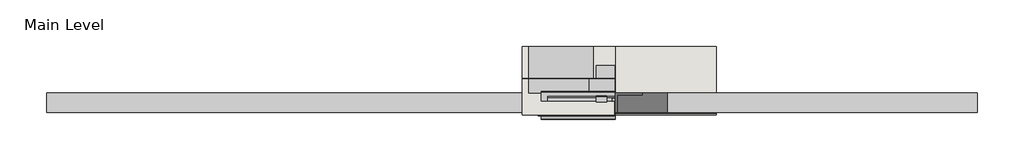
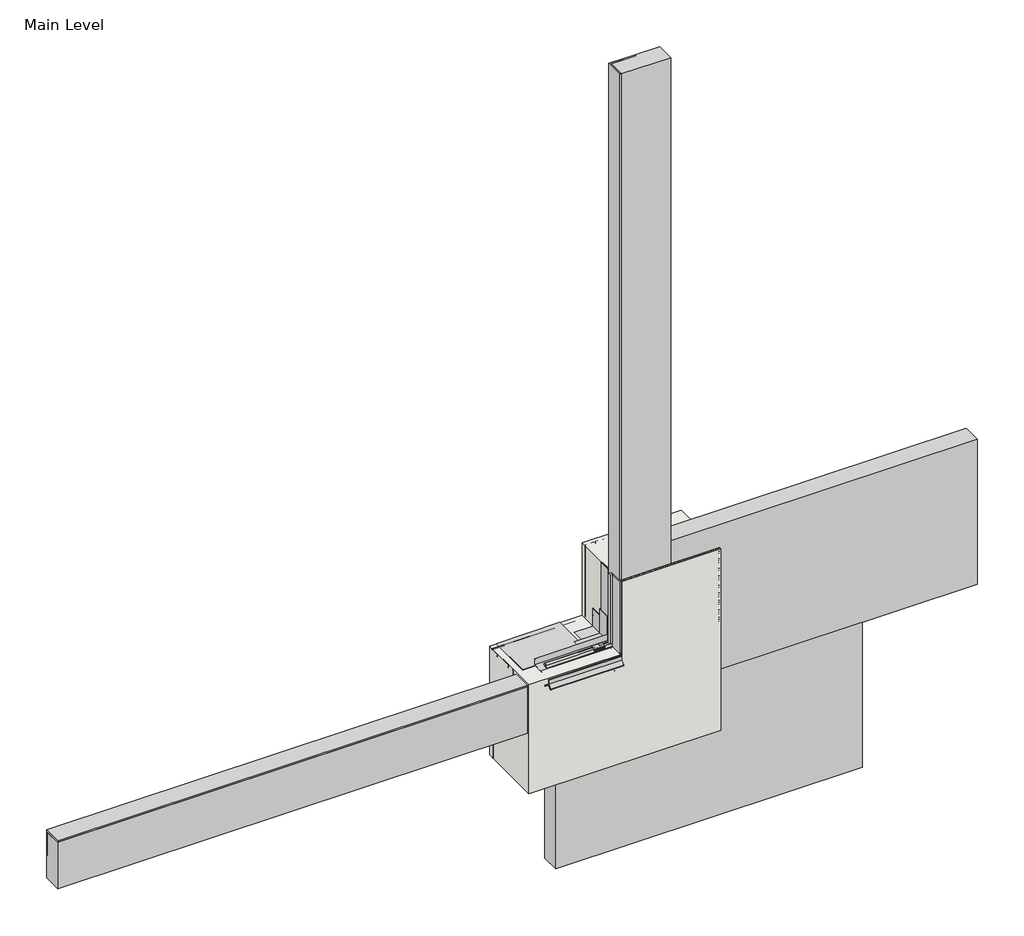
# One storey, incomplete: 19 proxies, 1 wall.
"""IFC4 building model written with IfcOpenShell, lengths in millimetres."""

from ifc_helpers import new_model, si_unit, frame, origin, place, context, project, spatial, polyline, outline, extrude, transform, mapped, element, save
from components import generic_models_31547c53, generic_models_d28646c3, generic_models_6d26ea6e, generic_models_db5184ed, generic_models_008a3d59, generic_models_12b73edd, proxy_ba8d72b4, proxy_a98eb32a, proxy_9e09e9f6, finish_coat_filler_finish_coat_filler_9b34bf11, masonry_sill_masonry_sill_3f966eea, masonry_sill3_masonry_sill_d59b7927, masonry_sill4_masonry_sill_9228ef93, proxy_a3fd9b0b, proxy_3a0ad636, proxy_0073da47, proxy_6f3203ff, window_header_window_header_abd4ef46, wood_blocking_5320d369

model = new_model("IFC4")

# Units and contexts
model_context = context("Model", 3, world=origin())
ifc_project = project(units=[si_unit("LENGTHUNIT", "METRE", prefix="MILLI")], contexts=[model_context])

# Site, building, storey
site = spatial("IfcSite", under=ifc_project)
building = spatial("IfcBuilding", under=site)
storey = spatial("IfcBuildingStorey", under=building, Name="Main Level", Elevation=0.0)

# Proxies
placement = place(None, origin())
generic_models_shape = generic_models_31547c53(model_context)
element("IfcBuildingElementProxy", 1, Name="Durabond Generic Model Sealant Vent : Durabond Generic Model Sealant Vent", ObjectType="Durabond Generic Model Sealant Vent : Durabond Generic Model Sealant Vent", at=placement, inside=storey, context=model_context, shape_type="MappedRepresentation", body=[
    mapped(generic_models_shape, transform((26800.7195523, 590.8476543, 464.646745), x_axis=(1.0, 0.0, 0.0), y_axis=(0.0, 0.08715574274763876, -0.9961946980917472), z_axis=(0.0, 0.9961946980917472, 0.08715574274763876))),
])
generic_models_2_shape = generic_models_d28646c3(model_context)
element("IfcBuildingElementProxy", 2, Name="CRAi Generic Model Line Based Drip Deflector : CRAi Generic Model Line Based Drip Deflector", ObjectType="CRAi Generic Model Line Based Drip Deflector : CRAi Generic Model Line Based Drip Deflector", at=placement, inside=storey, context=model_context, shape_type="MappedRepresentation", body=[
    mapped(generic_models_2_shape, transform((26855.8851773, 535.1829375, 451.8088934), x_axis=(0.0, 0.996194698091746, 0.08715574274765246), y_axis=(-1.0, 0.0, 0.0), z_axis=(0.0, -0.0871557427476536, 0.996194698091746))),
])
generic_models_3_shape = generic_models_6d26ea6e(model_context)
generic_models_4_shape = generic_models_db5184ed(model_context)
generic_models_5_shape = generic_models_008a3d59(model_context)
generic_models_6_shape = generic_models_12b73edd(model_context)
element("IfcBuildingElementProxy", 3, Name="CRAi Generic Model Mesh Piece Face Based : CRAi Generic Model Mesh Piece Face Based", ObjectType="CRAi Generic Model Mesh Piece Face Based : CRAi Generic Model Mesh Piece Face Based", at=placement, inside=storey, context=model_context, shape_type="MappedRepresentation", body=[
    mapped(generic_models_3_shape, transform((27054.3226773, 541.9066297, 606.6633203), x_axis=(-1.0, 0.0, 0.0), y_axis=(0.0, 0.0, -1.0), z_axis=(0.0, -1.0, 0.0))),
    mapped(generic_models_4_shape, transform((27054.3226773, 541.9066297, 606.6633203), x_axis=(-1.0, 0.0, 0.0), y_axis=(0.0, 0.0, -1.0), z_axis=(0.0, -1.0, 0.0))),
    mapped(generic_models_5_shape, transform((27054.3226773, 541.9066297, 606.6633203), x_axis=(-1.0, 0.0, 0.0), y_axis=(0.0, 0.0, -1.0), z_axis=(0.0, -1.0, 0.0))),
    mapped(generic_models_6_shape, transform((27054.3226773, 541.9066297, 606.6633203), x_axis=(-1.0, 0.0, 0.0), y_axis=(0.0, 0.0, -1.0), z_axis=(0.0, -1.0, 0.0))),
])
proxy_shape = proxy_ba8d72b4(model_context)
element("IfcBuildingElementProxy", 4, Name="Durabond Generic Model Equalite Select Boundary Board : 3\"", ObjectType="Durabond Generic Model Equalite Select Boundary Board : 3\"", at=placement, inside=storey, context=model_context, shape_type="MappedRepresentation", body=[
    mapped(proxy_shape, transform((25839.8851773, 624.4566297, 349.375778), x_axis=(-1.0, 0.0, 0.0), y_axis=(0.0, 0.0, -1.0), z_axis=(0.0, -1.0, 0.0))),
])
proxy_2_shape = proxy_a98eb32a(model_context)
element("IfcBuildingElementProxy", 5, Name="Durabond Generic Model Equalite Select Boundary Board : 3\"", ObjectType="Durabond Generic Model Equalite Select Boundary Board : 3\"", at=placement, inside=storey, context=model_context, shape_type="MappedRepresentation", body=[
    mapped(proxy_2_shape, transform((26957.4851773, 624.4566297, 1670.175778), x_axis=(0.0, 0.0, 1.0), y_axis=(-1.0, 0.0, 0.0), z_axis=(0.0, -1.0, 0.0))),
])
proxy_3_shape = proxy_9e09e9f6(model_context)
element("IfcBuildingElementProxy", 6, Name="Durabond Generic Model Equalite Insulation Board : 3\"", ObjectType="Durabond Generic Model Equalite Insulation Board : 3\"", at=placement, inside=storey, context=model_context, shape_type="MappedRepresentation", body=[
    mapped(proxy_3_shape, transform((27211.4851773, 624.4566297, -57.024222), x_axis=(1.0, 0.0, 0.0), y_axis=(0.0, 0.0, 1.0), z_axis=(0.0, -1.0, 0.0))),
])
element("IfcBuildingElementProxy", 7, Name="Durabond Generic Model Equalite Insulation Board : 3\"", ObjectType="Durabond Generic Model Equalite Insulation Board : 3\"", at=placement, inside=storey, context=model_context, shape_type="MappedRepresentation", body=[
    mapped(proxy_3_shape, transform((27668.6851773, 624.4566297, 552.575778), x_axis=(1.0, 0.0, 0.0), y_axis=(0.0, 0.0, 1.0), z_axis=(0.0, -1.0, 0.0))),
])
finish_coat_filler_finish_coat_filler_shape = finish_coat_filler_finish_coat_filler_9b34bf11(model_context)
element("IfcBuildingElementProxy", 8, Name="Finish Coat Filler : Finish Coat Filler", ObjectType="Finish Coat Filler : Finish Coat Filler", at=placement, inside=storey, context=model_context, shape_type="MappedRepresentation", body=[
    mapped(finish_coat_filler_finish_coat_filler_shape, transform((0.0, 0.0, -152.4), x_axis=(1.0, 0.0, 0.0), y_axis=(0.0, 1.0, 0.0), z_axis=(0.0, 0.0, 1.0))),
])
masonry_sill_masonry_sill_shape = masonry_sill_masonry_sill_3f966eea(model_context)
element("IfcBuildingElementProxy", 9, Name="Masonry Sill : Masonry Sill", ObjectType="Masonry Sill : Masonry Sill", at=placement, inside=storey, context=model_context, shape_type="MappedRepresentation", body=[
    mapped(masonry_sill_masonry_sill_shape, transform((0.0, 0.0, 0.0), x_axis=(1.0, 0.0, 0.0), y_axis=(0.0, 1.0, 0.0), z_axis=(0.0, 0.0, 1.0))),
])
masonry_sill3_masonry_sill_shape = masonry_sill3_masonry_sill_d59b7927(model_context)
element("IfcBuildingElementProxy", 10, Name="Masonry Sill3 : Masonry Sill", ObjectType="Masonry Sill3 : Masonry Sill", at=placement, inside=storey, context=model_context, shape_type="MappedRepresentation", body=[
    mapped(masonry_sill3_masonry_sill_shape, transform((0.0, 0.0, 0.0), x_axis=(1.0, 0.0, 0.0), y_axis=(0.0, 1.0, 0.0), z_axis=(0.0, 0.0, 1.0))),
])
masonry_sill4_masonry_sill_shape = masonry_sill4_masonry_sill_9228ef93(model_context)
element("IfcBuildingElementProxy", 11, Name="Masonry Sill4 : Masonry Sill", ObjectType="Masonry Sill4 : Masonry Sill", at=placement, inside=storey, context=model_context, shape_type="MappedRepresentation", body=[
    mapped(masonry_sill4_masonry_sill_shape, transform((0.0, 0.0, -101.6), x_axis=(1.0, 0.0, 0.0), y_axis=(0.0, 1.0, 0.0), z_axis=(0.0, 0.0, 1.0))),
])
proxy_4_shape = proxy_a3fd9b0b(model_context)
element("IfcBuildingElementProxy", 12, Name="CRAi Generic Model Metal Stud : Metal Framing Stud - 1\" x 3.5\"", ObjectType="CRAi Generic Model Metal Stud : Metal Framing Stud - 1\" x 3.5\"", at=placement, inside=storey, context=model_context, shape_type="MappedRepresentation", body=[
    mapped(proxy_4_shape, transform((26876.5226773, 726.0566297, 0.0), x_axis=(1.0, 0.0, 0.0), y_axis=(0.0, 1.0, 0.0), z_axis=(0.0, 0.0, 1.0))),
])
proxy_5_shape = proxy_3a0ad636(model_context)
element("IfcBuildingElementProxy", 13, Name="CRAi Generic Model Metal Stud : Metal Framing Stud - 1\" x 3.5\"", ObjectType="CRAi Generic Model Metal Stud : Metal Framing Stud - 1\" x 3.5\"", at=placement, inside=storey, context=model_context, shape_type="MappedRepresentation", body=[
    mapped(proxy_5_shape, transform((26876.5226773, 719.7066297, 0.0), x_axis=(1.0, 0.0, 0.0), y_axis=(0.0, 1.0, 0.0), z_axis=(0.0, 0.0, 1.0))),
])
proxy_6_shape = proxy_0073da47(model_context)
element("IfcBuildingElementProxy", 14, Name="CRAi Generic Model Metal Stud : Metal Framing Stud - 1\" x 3.5\"", ObjectType="CRAi Generic Model Metal Stud : Metal Framing Stud - 1\" x 3.5\"", at=placement, inside=storey, context=model_context, shape_type="MappedRepresentation", body=[
    mapped(proxy_6_shape, transform((26914.6226773, 719.7066297, 0.0), x_axis=(-1.0, 0.0, 0.0), y_axis=(0.0, -1.0, 0.0), z_axis=(0.0, 0.0, 1.0))),
])
proxy_7_shape = proxy_6f3203ff(model_context)
element("IfcBuildingElementProxy", 15, Name="CRAi Generic Model Metal Stud : Metal Framing Stud - 1\" x 3.5\"", ObjectType="CRAi Generic Model Metal Stud : Metal Framing Stud - 1\" x 3.5\"", at=placement, inside=storey, context=model_context, shape_type="MappedRepresentation", body=[
    mapped(proxy_7_shape, transform((26508.2226773, 719.7066297, 0.0), x_axis=(-1.0, 0.0, 0.0), y_axis=(0.0, -1.0, 0.0), z_axis=(0.0, 0.0, 1.0))),
])
window_header_window_header_shape = window_header_window_header_abd4ef46(model_context)
element("IfcBuildingElementProxy", 16, Name="Window Header : Window Header", ObjectType="Window Header : Window Header", at=placement, inside=storey, context=model_context, shape_type="MappedRepresentation", body=[
    mapped(window_header_window_header_shape, transform((0.0, -6.35, 0.0), x_axis=(1.0, 0.0, 0.0), y_axis=(0.0, 1.0, 0.0), z_axis=(0.0, 0.0, 1.0))),
])
wood_blocking_shape = wood_blocking_5320d369(model_context)
element("IfcBuildingElementProxy", 17, Name="CRAi Generic Model Line Based Metal Framing Track : Wood Blocking", ObjectType="CRAi Generic Model Line Based Metal Framing Track : Wood Blocking", at=placement, inside=storey, context=model_context, shape_type="MappedRepresentation", body=[
    mapped(wood_blocking_shape, transform((26489.1726773, 643.5066297, 304.8), x_axis=(1.0, 0.0, 0.0), y_axis=(0.0, 1.0, 0.0), z_axis=(0.0, 0.0, 1.0))),
])
element("IfcBuildingElementProxy", 18, Name="CRAi Generic Model Line Based Metal Framing Track : Wood Blocking", ObjectType="CRAi Generic Model Line Based Metal Framing Track : Wood Blocking", at=placement, inside=storey, context=model_context, shape_type="MappedRepresentation", body=[
    mapped(wood_blocking_shape, transform((26489.1726773, 795.907101, 457.2), x_axis=(1.0, 0.0, 0.0), y_axis=(0.0, -1.0, 0.0), z_axis=(0.0, 0.0, -1.0))),
])
element("IfcBuildingElementProxy", 19, Name="CRAi Generic Model Line Based Metal Framing Track : Wood Blocking", ObjectType="CRAi Generic Model Line Based Metal Framing Track : Wood Blocking", at=placement, inside=storey, context=model_context, shape_type="MappedRepresentation", body=[
    mapped(wood_blocking_shape, transform((26489.1726773, 795.9066297, 304.8), x_axis=(1.0, 0.0, 0.0), y_axis=(0.0, -1.0, 0.0), z_axis=(0.0, 0.0, -1.0))),
])

# Wall
element("IfcWall", 20, ObjectType="189mm (7.5”) EIFS Field Applied on Mtl. Stud Layer - 50mm Grooved Insulation Board Metal Stud Wall(AirStop) 2", at=placement, inside=storey, context=model_context, shape_type="SweptSolid", body=[
    extrude(outline(polyline([(0.0, 26489.1726773), (0.0, 27251.1726773), (762.0, 27251.1726773), (762.0, 26857.4726773), (457.2, 26857.4726773), (457.2, 26489.1726773), (0.0, 26489.1726773)])), frame((0.0, 538.7316297, 0.0), z_axis=(0.0, 1.0, 0.0), x_axis=(0.0, 0.0, 1.0)), (0.0, 0.0, 1.0), 269.875),
])

save(model, "model.ifc")
